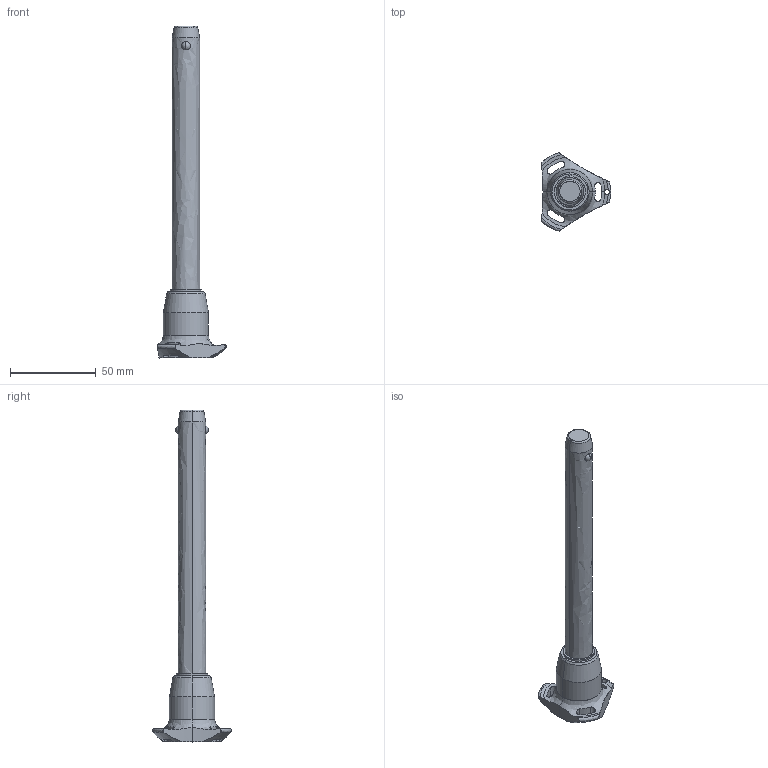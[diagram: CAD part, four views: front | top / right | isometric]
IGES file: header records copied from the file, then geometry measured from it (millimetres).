
Start section: SolidWorks IGES file using analytic representation for surfaces
Global section: file name: C:\Users\ianosborn\Desktop\QR1734_v2\QR1734_v2_20251113_IGES\QR1734.M16-140-S.igs; native system: SolidWorks 2019; preprocessor: SolidWorks 2019; author: IanOsborn; date: 251112.143914; units: millimetre
Bounding box: 40.5 x 45.88 x 193.7 mm (x, y, z)
Surface area: 13695.7 mm2 (no closed solid volume)
Topology: 0 solids, 0 shells, 65 faces, 1379 edges, 1375 vertices
Faces by surface type: revolution 50, bspline 15
